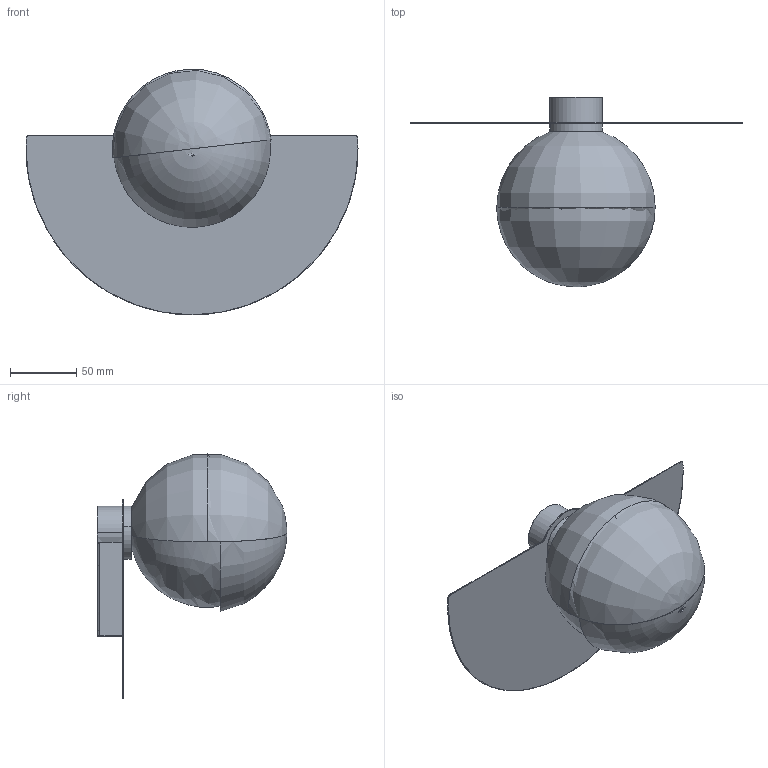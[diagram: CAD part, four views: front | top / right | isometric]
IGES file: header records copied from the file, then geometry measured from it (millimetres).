
Start section: SolidWorks IGES file using analytic representation for surfaces
Global section: file name: C:\Users\anna.bielnik\Desktop\SATURN S\NL2500027000.IGS; native system: SolidWorks 2025; preprocessor: SolidWorks 2025; author: anna.bielnik; date: 260413.083100; units: millimetre
Bounding box: 250 x 142.88 x 184.98 mm (x, y, z)
Surface area: 154911.2 mm2 (no closed solid volume)
Topology: 0 solids, 0 shells, 107 faces, 1615 edges, 1612 vertices
Faces by surface type: revolution 57, bspline 50
